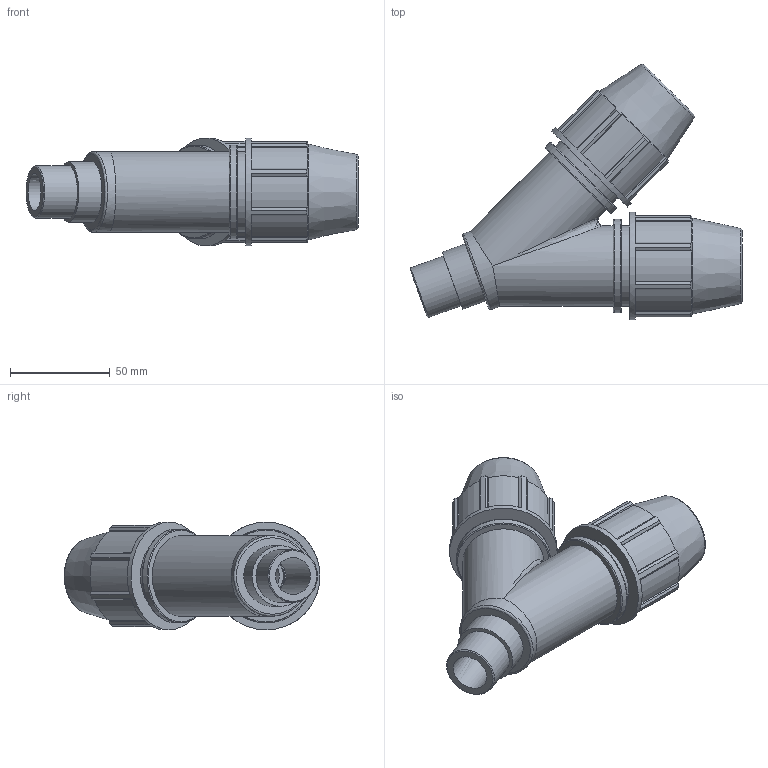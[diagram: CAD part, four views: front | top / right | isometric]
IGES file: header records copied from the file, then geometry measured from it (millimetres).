
Global section: file name: 075500025007_185500025007_0755060250070A.ipt; native system: Autodesk Inventor 2015; preprocessor: unknown; author: KIM; date: 20170618.093416; units: millimetre
Bounding box: 166.45 x 128.29 x 54 mm (x, y, z)
Volume: 287747.9 mm3; surface area: 60318.5 mm2
Topology: 1 solids, 1 shells, 160 faces, 419 edges, 274 vertices
Faces by surface type: plane 101, cylinder 29, revolution 24, cone 5, bspline 1
Full cylindrical faces by diameter (mm): 26.441 x1, 30.407 x1, 40.5 x5, 46.98 x2, 54 x2
